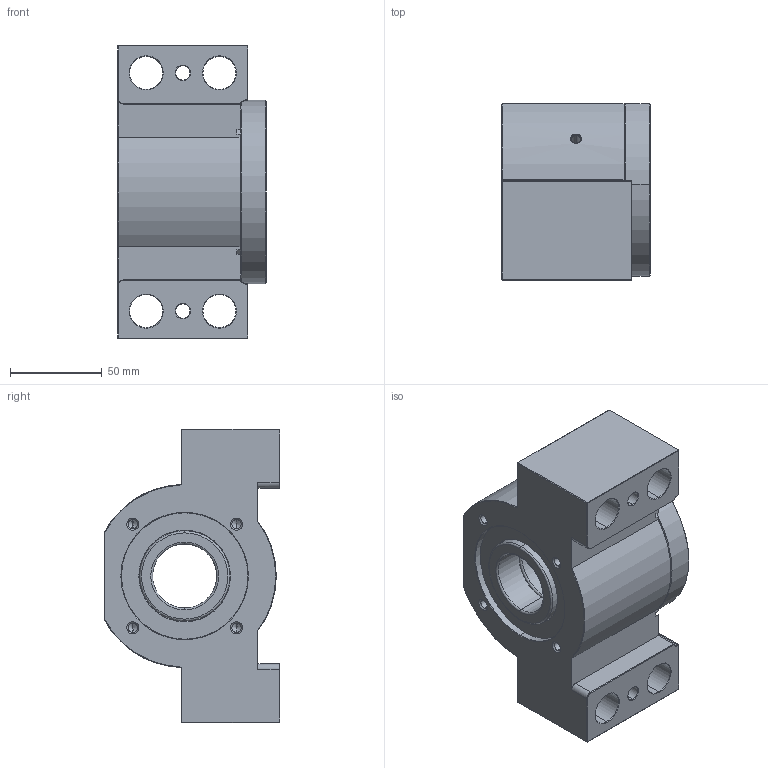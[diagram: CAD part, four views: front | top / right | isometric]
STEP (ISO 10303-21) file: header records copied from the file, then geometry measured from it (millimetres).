
FILE_DESCRIPTION (( 'STEP AP203' ), '1' );
FILE_NAME ('SBK35DFD²Õ¦X.STEP', '2010-08-13T12:10:55', ( '' ), ( '' ), 'SwSTEP 2.0', 'SolidWorks 2008', '' );
FILE_SCHEMA (( 'CONFIG_CONTROL_DESIGN' ));
Length unit declared in the file: millimetre
Products named in the file (1): SBK35DFD組合
Bounding box: 81 x 96 x 160 mm (x, y, z)
Volume: 672045.7 mm3; surface area: 188357.9 mm2
Topology: 72 solids, 72 shells, 566 faces, 1391 edges, 856 vertices
Faces by surface type: cylinder 162, cone 139, sphere 120, plane 99, torus 46
Entity records: 14550 total; most frequent: DIRECTION 2809, CARTESIAN_POINT 2534, ORIENTED_EDGE 2142, AXIS2_PLACEMENT_3D 1201, EDGE_CURVE 1071, VERTEX_POINT 676, EDGE_LOOP 643, CIRCLE 634
